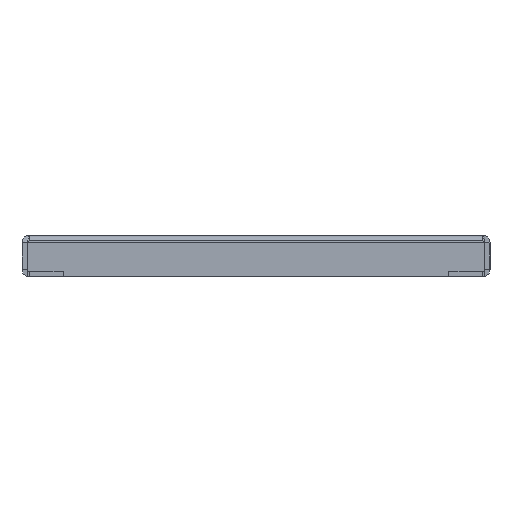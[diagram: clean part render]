
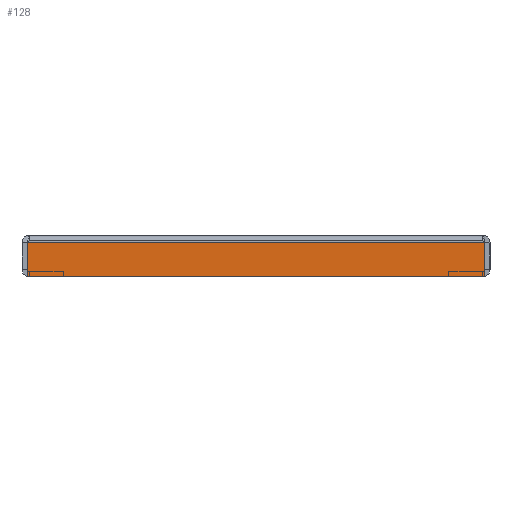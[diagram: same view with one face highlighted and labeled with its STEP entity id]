
A CAD part, front view. The second image highlights one B-rep face of the part: STEP entity #128.
In plain terms, the highlighted planar face has unit normal (0, -1, 0).
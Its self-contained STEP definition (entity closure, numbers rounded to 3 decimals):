
#128=ADVANCED_FACE('',(#1206),#1208,.F.);
#1206=FACE_BOUND('',#1207,.T.);
#1207=EDGE_LOOP('',(#1817,#1818,#1819,#1820));
#1208=PLANE('',#1209);
#1209=AXIS2_PLACEMENT_3D('',#1210,#1211,#1212);
#1210=CARTESIAN_POINT('',(0.,-966.5,0.));
#1211=DIRECTION('',(0.,1.,0.));
#1212=DIRECTION('',(-1.,0.,0.));
#1817=ORIENTED_EDGE('',*,*,#2171,.F.);
#1818=ORIENTED_EDGE('',*,*,#2173,.F.);
#1819=ORIENTED_EDGE('',*,*,#2174,.F.);
#1820=ORIENTED_EDGE('',*,*,#2175,.F.);
#2171=EDGE_CURVE('',#2560,#2554,#2563,.T.);
#2173=EDGE_CURVE('',#2565,#2560,#2566,.T.);
#2174=EDGE_CURVE('',#2567,#2565,#2568,.T.);
#2175=EDGE_CURVE('',#2554,#2567,#2569,.T.);
#2554=VERTEX_POINT('',#4248);
#2560=VERTEX_POINT('',#4444);
#2563=LINE('',#4547,#4548);
#2565=VERTEX_POINT('',#4553);
#2566=LINE('',#4554,#4555);
#2567=VERTEX_POINT('',#4557);
#2568=LINE('',#4558,#4559);
#2569=LINE('',#4561,#4562);
#4248=CARTESIAN_POINT('',(135.823,-966.5,-4.4));
#4444=CARTESIAN_POINT('',(-135.823,-966.5,-4.4));
#4547=CARTESIAN_POINT('',(-135.823,-966.5,-4.4));
#4548=VECTOR('',#4549,1.);
#4549=DIRECTION('',(1.,0.,0.));
#4553=CARTESIAN_POINT('',(-135.823,-966.5,-24.5));
#4554=CARTESIAN_POINT('',(-135.823,-966.5,-24.5));
#4555=VECTOR('',#4556,1.);
#4556=DIRECTION('',(0.,0.,1.));
#4557=CARTESIAN_POINT('',(135.823,-966.5,-24.5));
#4558=CARTESIAN_POINT('',(135.823,-966.5,-24.5));
#4559=VECTOR('',#4560,1.);
#4560=DIRECTION('',(-1.,0.,0.));
#4561=CARTESIAN_POINT('',(135.823,-966.5,-4.4));
#4562=VECTOR('',#4563,1.);
#4563=DIRECTION('',(0.,0.,-1.));
